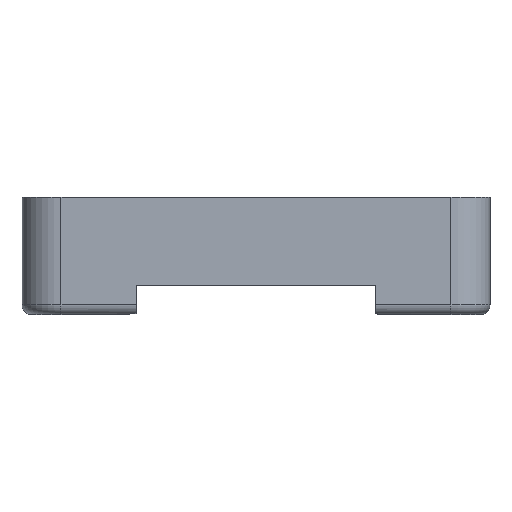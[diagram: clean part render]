
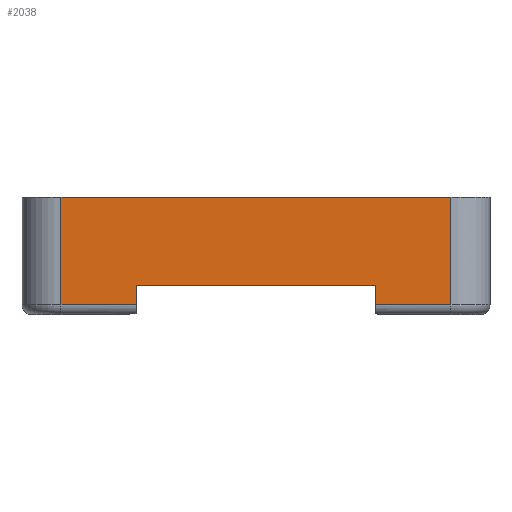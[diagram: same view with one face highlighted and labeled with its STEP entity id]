
A CAD part, left-side view. The second image highlights one B-rep face of the part: STEP entity #2038.
In plain terms, the highlighted planar face has unit normal (-1, 0, 0).
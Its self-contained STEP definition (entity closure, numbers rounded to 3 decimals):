
#64=PLANE('',#2220);
#132=FACE_OUTER_BOUND('',#245,.T.);
#245=EDGE_LOOP('',(#1376,#1377,#1378,#1379,#1380,#1381,#1382,#1383));
#460=LINE('',#3135,#630);
#469=LINE('',#3155,#639);
#470=LINE('',#3159,#640);
#471=LINE('',#3161,#641);
#472=LINE('',#3163,#642);
#473=LINE('',#3165,#643);
#474=LINE('',#3167,#644);
#475=LINE('',#3168,#645);
#630=VECTOR('',#2476,10.);
#639=VECTOR('',#2491,10.);
#640=VECTOR('',#2496,10.);
#641=VECTOR('',#2497,10.);
#642=VECTOR('',#2498,10.);
#643=VECTOR('',#2499,10.);
#644=VECTOR('',#2500,10.);
#645=VECTOR('',#2501,10.);
#835=VERTEX_POINT('',#3127);
#837=VERTEX_POINT('',#3133);
#845=VERTEX_POINT('',#3154);
#846=VERTEX_POINT('',#3158);
#847=VERTEX_POINT('',#3160);
#848=VERTEX_POINT('',#3162);
#849=VERTEX_POINT('',#3164);
#850=VERTEX_POINT('',#3166);
#1041=EDGE_CURVE('',#837,#835,#460,.T.);
#1051=EDGE_CURVE('',#835,#845,#469,.T.);
#1053=EDGE_CURVE('',#837,#846,#470,.T.);
#1054=EDGE_CURVE('',#846,#847,#471,.T.);
#1055=EDGE_CURVE('',#847,#848,#472,.T.);
#1056=EDGE_CURVE('',#849,#848,#473,.T.);
#1057=EDGE_CURVE('',#850,#849,#474,.T.);
#1058=EDGE_CURVE('',#850,#845,#475,.T.);
#1376=ORIENTED_EDGE('',*,*,#1041,.F.);
#1377=ORIENTED_EDGE('',*,*,#1053,.T.);
#1378=ORIENTED_EDGE('',*,*,#1054,.T.);
#1379=ORIENTED_EDGE('',*,*,#1055,.T.);
#1380=ORIENTED_EDGE('',*,*,#1056,.F.);
#1381=ORIENTED_EDGE('',*,*,#1057,.F.);
#1382=ORIENTED_EDGE('',*,*,#1058,.T.);
#1383=ORIENTED_EDGE('',*,*,#1051,.F.);
#2038=ADVANCED_FACE('',(#132),#64,.T.);
#2220=AXIS2_PLACEMENT_3D('',#3157,#2494,#2495);
#2476=DIRECTION('',(0.,-1.,0.));
#2491=DIRECTION('',(0.,0.,-1.));
#2494=DIRECTION('center_axis',(-1.,0.,0.));
#2495=DIRECTION('ref_axis',(0.,-1.,0.));
#2496=DIRECTION('',(0.,0.,-1.));
#2497=DIRECTION('',(0.,1.,0.));
#2498=DIRECTION('',(0.,0.,1.));
#2499=DIRECTION('',(0.,-1.,0.));
#2500=DIRECTION('',(0.,0.,1.));
#2501=DIRECTION('',(0.,-1.,0.));
#3127=CARTESIAN_POINT('',(0.,4.,11.));
#3133=CARTESIAN_POINT('',(0.,11.694,11.));
#3135=CARTESIAN_POINT('',(0.,24.,11.));
#3154=CARTESIAN_POINT('',(0.,4.,0.));
#3155=CARTESIAN_POINT('',(0.,4.,1.));
#3157=CARTESIAN_POINT('Origin',(0.,48.,1.));
#3158=CARTESIAN_POINT('',(0.,11.694,9.));
#3159=CARTESIAN_POINT('',(0.,11.694,6.5));
#3160=CARTESIAN_POINT('',(0.,36.306,9.));
#3161=CARTESIAN_POINT('',(0.,36.,9.));
#3162=CARTESIAN_POINT('',(0.,36.306,11.));
#3163=CARTESIAN_POINT('',(0.,36.306,6.5));
#3164=CARTESIAN_POINT('',(0.,44.,11.));
#3165=CARTESIAN_POINT('',(0.,24.,11.));
#3166=CARTESIAN_POINT('',(0.,44.,0.));
#3167=CARTESIAN_POINT('',(0.,44.,1.));
#3168=CARTESIAN_POINT('',(0.,48.,0.));
